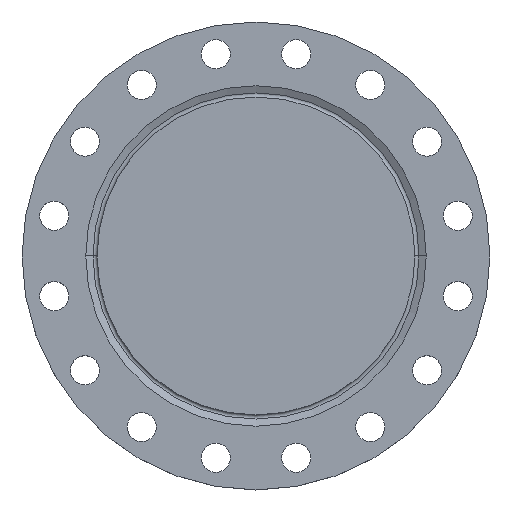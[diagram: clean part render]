
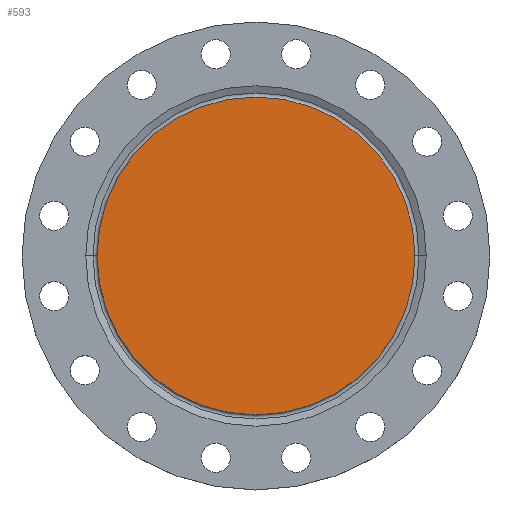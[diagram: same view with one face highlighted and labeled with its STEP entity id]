
A CAD part, top view. The second image highlights one B-rep face of the part: STEP entity #593.
In plain terms, the highlighted planar face has unit normal (0, 0, 1).
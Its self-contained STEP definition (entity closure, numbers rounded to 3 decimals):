
#1 = CARTESIAN_POINT ( 'NONE',  ( -197., 0., 0. ) ) ;
#119 = DIRECTION ( 'NONE',  ( -1., 0., 0. ) ) ;
#123 = DIRECTION ( 'NONE',  ( 0., 0., -1. ) ) ;
#124 = CARTESIAN_POINT ( 'NONE',  ( 0., 0., 0. ) ) ;
#593 = ADVANCED_FACE ( 'NONE', ( #623 ), #622, .T. ) ;
#617 = DIRECTION ( 'NONE',  ( 1., 0., 0. ) ) ;
#618 = DIRECTION ( 'NONE',  ( 0., 0., 1. ) ) ;
#621 = CARTESIAN_POINT ( 'NONE',  ( 0., 0., 0. ) ) ;
#622 = PLANE ( 'NONE',  #852 ) ;
#623 = FACE_OUTER_BOUND ( 'NONE', #1152, .T. ) ;
#709 = AXIS2_PLACEMENT_3D ( 'NONE', #1302, #1298, #1264 ) ;
#718 = CIRCLE ( 'NONE', #709, 197. ) ;
#852 = AXIS2_PLACEMENT_3D ( 'NONE', #621, #618, #617 ) ;
#1152 = EDGE_LOOP ( 'NONE', ( #1475, #1476 ) ) ;
#1264 = DIRECTION ( 'NONE',  ( -1., 0., 0. ) ) ;
#1298 = DIRECTION ( 'NONE',  ( 0., 0., -1. ) ) ;
#1302 = CARTESIAN_POINT ( 'NONE',  ( 0., 0., 0. ) ) ;
#1305 = CIRCLE ( 'NONE', #1322, 197. ) ;
#1322 = AXIS2_PLACEMENT_3D ( 'NONE', #124, #123, #119 ) ;
#1463 = EDGE_CURVE ( 'NONE', #1557, #1560, #1305, .T. ) ;
#1475 = ORIENTED_EDGE ( 'NONE', *, *, #1463, .F. ) ;
#1476 = ORIENTED_EDGE ( 'NONE', *, *, #1581, .F. ) ;
#1557 = VERTEX_POINT ( 'NONE', #1 ) ;
#1560 = VERTEX_POINT ( 'NONE', #1625 ) ;
#1581 = EDGE_CURVE ( 'NONE', #1560, #1557, #718, .T. ) ;
#1625 = CARTESIAN_POINT ( 'NONE',  ( 197., 0., 0. ) ) ;
